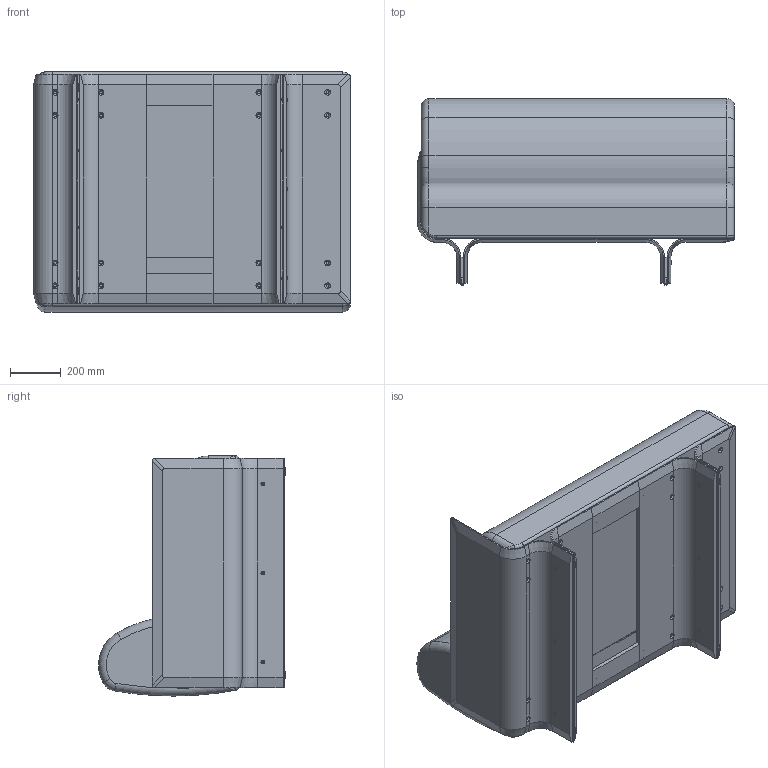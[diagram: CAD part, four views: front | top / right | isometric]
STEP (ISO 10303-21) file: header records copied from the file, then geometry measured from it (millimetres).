
FILE_DESCRIPTION (( 'STEP AP214' ), '1' );
FILE_NAME ('1230 SX.STEP', '2024-06-05T12:44:49', ( '' ), ( '' ), 'SwSTEP 2.0', 'SolidWorks 2023', '' );
FILE_SCHEMA (( 'AUTOMOTIVE_DESIGN' ));
Length unit declared in the file: millimetre
Products named in the file (12): SEDILE_1230 LATERALE solo GOMMA; boccola_borchia M6; PIEDINO_L900; BASE_DISTANZIALE_1cm; 1230 SX; BASE_COMPONENTI_SEMIPONTE CENTRALE; 20PT8X30N scivolo IPEA; STAMI_SOFA_PLUS_BASE_ASSIEME_1230 TERMINALE; BASE_FASCIA_COLLEGAMENTO_x_MODULARE_1230 TERMINALE; BASE_COMPONENTI_SEMIPONTE TERMINALE; BASE_TERMINALE_SOFA; SCHIENALE_GOMMA_1230 SX
Assembly tree (29 placements, depth 3):
  1230 SX
    STAMI_SOFA_PLUS_BASE_ASSIEME_1230 TERMINALE
      BASE_TERMINALE_SOFA
      BASE_DISTANZIALE_1cm  x2
      PIEDINO_L900  x2
      20PT8X30N scivolo IPEA  x4
      BASE_COMPONENTI_SEMIPONTE CENTRALE  x2
      BASE_FASCIA_COLLEGAMENTO_x_MODULARE_1230 TERMINALE  x2
      BASE_COMPONENTI_SEMIPONTE TERMINALE
      boccola_borchia M6  x12
    SEDILE_1230 LATERALE solo GOMMA
    SCHIENALE_GOMMA_1230 SX
Bounding box: 1245 x 733.94 x 943.25 mm (x, y, z)
Volume: 390927237.6 mm3; surface area: 8599784.5 mm2
Topology: 28 solids, 28 shells, 761 faces, 1811 edges, 1086 vertices
Faces by surface type: cylinder 327, plane 266, cone 90, torus 56, sphere 16, bspline 6
Entity records: 11863 total; most frequent: CARTESIAN_POINT 2740, DIRECTION 1994, ORIENTED_EDGE 1712, EDGE_CURVE 856, AXIS2_PLACEMENT_3D 789, VERTEX_POINT 524, EDGE_LOOP 426, LINE 416
